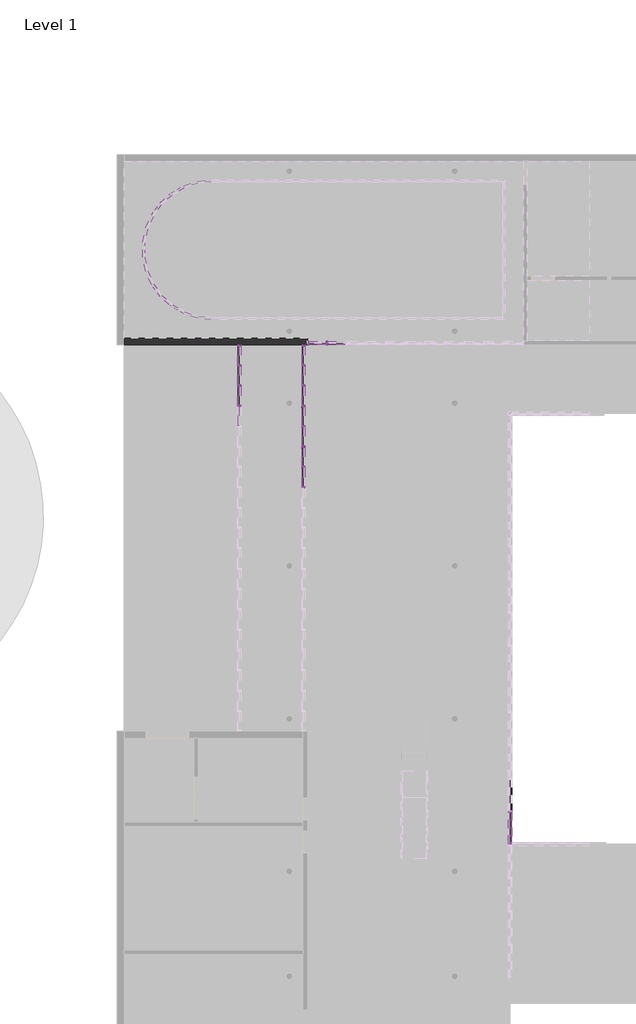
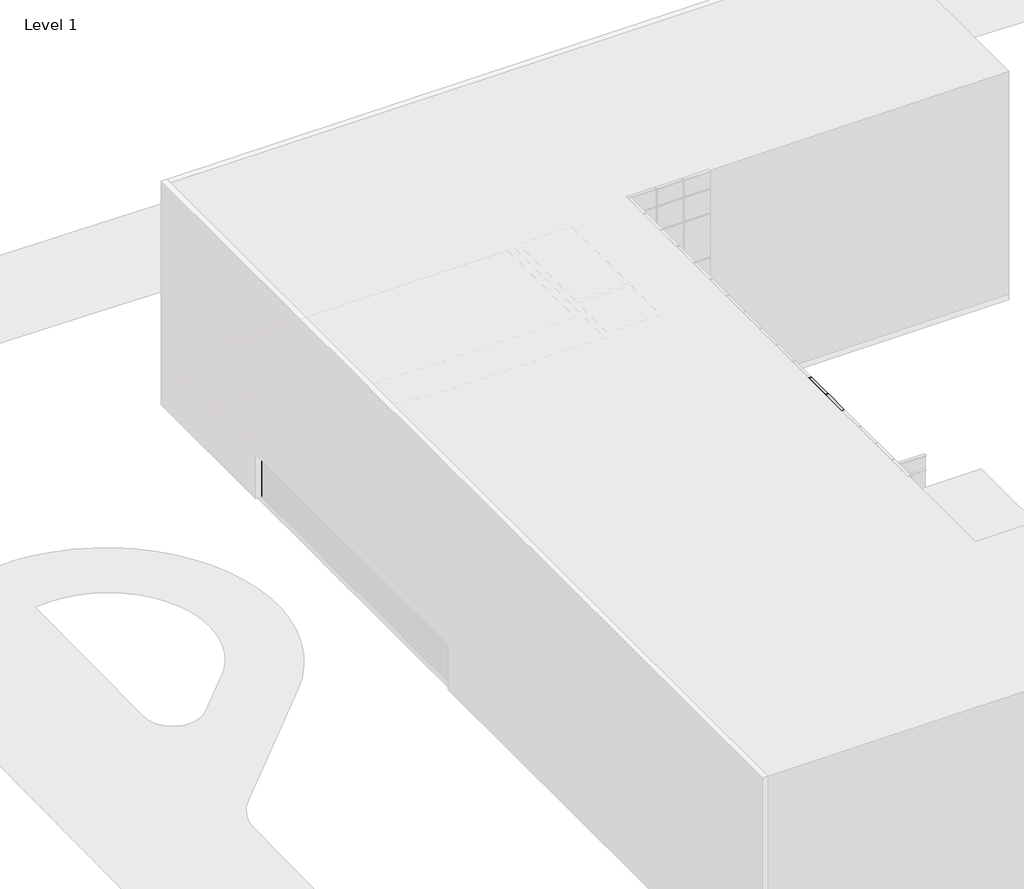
# One storey, part 11 of 27: 85 members, 32 plates, 2 doors, 2 walls.
"""IFC4 building model written with IfcOpenShell, lengths in millimetres."""

from ifc_helpers import new_model, si_unit, point, frame, frame_2d, origin, place, context, project, spatial, polyline, circle_curve, trimmed, segment, composite_curve, outline, extrude, faceted_brep, transform, mapped, element, save
from components import m_door_curtain_wall_double_storefront_m_door_curtain_wall_2970ffc3, rectangular_mullion_50mm_x_150mm_13593f2b, rectangular_mullion_50mm_x_150mm_0e57614d, rectangular_mullion_50mm_x_150mm_d8a63713, rectangular_mullion_50mm_x_150mm_a5e1a8f4, rectangular_mullion_50mm_x_150mm_caa46ae3, rectangular_mullion_50mm_x_150mm_eff96389, rectangular_mullion_50mm_x_150mm_2f4df0fd, rectangular_mullion_50mm_x_150mm_a28728bf, rectangular_mullion_50mm_x_150mm_22af440f, rectangular_mullion_50mm_x_150mm_0f59f38f, rectangular_mullion_50mm_x_150mm_3fa3ad65, rectangular_mullion_50mm_x_150mm_d427b131, rectangular_mullion_50mm_x_150mm_a376ce0f, rectangular_mullion_50mm_x_150mm_4471a7bc, rectangular_mullion_50mm_x_150mm_1cdaa0f1, rectangular_mullion_50mm_x_150mm_70cae3e1, rectangular_mullion_50mm_x_150mm_5226f6e8, rectangular_mullion_50mm_x_150mm_cdcddcff, rectangular_mullion_50mm_x_150mm_bbc1c4ea, rectangular_mullion_50mm_x_150mm_36202a7c, rectangular_mullion_50mm_x_150mm_84717ec5, system_panel_glazed_dff54dbd, system_panel_glazed_4aef0c34, system_panel_glazed_3f9df8c7, system_panel_glazed_45ebec01, system_panel_glazed_aa3f7126, system_panel_glazed_37b7c907, system_panel_glazed_7c3f78ea, system_panel_glazed_1f05e993, system_panel_glazed_979b1f5c, system_panel_glazed_2f061a2c, system_panel_glazed_e0fa8d18, system_panel_glazed_d7f2fe37, system_panel_solid_7338a288, system_panel_solid_0b170172, system_panel_solid_080c1e2c, system_panel_solid_c63c66e8

model = new_model("IFC4")

# Units and contexts
model_context = context("Model", 3, world=origin())
ifc_project = project(units=[si_unit("LENGTHUNIT", "METRE", prefix="MILLI")], contexts=[model_context])

# Site, building, storey
site = spatial("IfcSite", under=ifc_project)
building = spatial("IfcBuilding", under=site)
storey = spatial("IfcBuildingStorey", under=building, Name="Level 1", Elevation=0.0)

# Doors
placement = place(None, origin())
m_door_curtain_wall_double_storefront_m_door_curtain_wall_shape = m_door_curtain_wall_double_storefront_m_door_curtain_wall_2970ffc3(model_context)
element("IfcDoor", 1, ObjectType="M_Door-Curtain-Wall-Double-Storefront : M_Door-Curtain-Wall-Double-Storefront", at=placement, inside=storey, context=model_context, shape_type="MappedRepresentation", body=[
    mapped(m_door_curtain_wall_double_storefront_m_door_curtain_wall_shape, transform((-1903.8386635, 16994.8957697, 0.0), x_axis=(0.0, -1.0, 0.0), y_axis=(1.0, 0.0, 0.0), z_axis=(0.0, 0.0, 1.0))),
])
element("IfcDoor", 2, ObjectType="M_Door-Curtain-Wall-Double-Storefront : M_Door-Curtain-Wall-Double-Storefront", at=placement, inside=storey, context=model_context, shape_type="MappedRepresentation", body=[
    mapped(m_door_curtain_wall_double_storefront_m_door_curtain_wall_shape, transform((-1903.8386635, 18836.7905065, 0.0), x_axis=(0.0, -1.0, 0.0), y_axis=(1.0, 0.0, 0.0), z_axis=(0.0, 0.0, 1.0))),
])

# Members
rectangular_mullion_50mm_x_150mm_shape = rectangular_mullion_50mm_x_150mm_13593f2b(model_context)
element("IfcMember", 3, ObjectType="Rectangular Mullion : 50mm x 150mm", at=placement, inside=storey, context=model_context, shape_type="MappedRepresentation", body=[
    mapped(rectangular_mullion_50mm_x_150mm_shape, transform((-865.0805055, 22595.5799804, 0.0), x_axis=(0.0, 0.0, -1.0), y_axis=(0.0, 1.0, 0.0), z_axis=(1.0, 0.0, 0.0))),
])
element("IfcMember", 4, ObjectType="Rectangular Mullion : 50mm x 150mm", at=placement, inside=storey, context=model_context, shape_type="MappedRepresentation", body=[
    mapped(rectangular_mullion_50mm_x_150mm_shape, transform((-1678.8386635, 22595.5799804, 3550.0), x_axis=(0.0, 0.0, 1.0), y_axis=(0.0, 1.0, 0.0), z_axis=(-1.0, 0.0, 0.0))),
])
rectangular_mullion_50mm_x_150mm_2_shape = rectangular_mullion_50mm_x_150mm_0e57614d(model_context)
element("IfcMember", 5, ObjectType="Rectangular Mullion : 50mm x 150mm", at=placement, inside=storey, context=model_context, shape_type="MappedRepresentation", body=[
    mapped(rectangular_mullion_50mm_x_150mm_2_shape, transform((-815.0805055, 22595.5799804, 3550.0), x_axis=(0.0, 0.0, 1.0), y_axis=(0.0, 1.0, 0.0), z_axis=(-1.0, 0.0, 0.0))),
])
rectangular_mullion_50mm_x_150mm_3_shape = rectangular_mullion_50mm_x_150mm_d8a63713(model_context)
element("IfcMember", 6, ObjectType="Rectangular Mullion : 50mm x 150mm", at=placement, inside=storey, context=model_context, shape_type="MappedRepresentation", body=[
    mapped(rectangular_mullion_50mm_x_150mm_3_shape, transform((-840.0805055, 22595.5799804, 0.0), x_axis=(-1.0, 0.0, 0.0), y_axis=(0.0, 1.0, 0.0), z_axis=(0.0, 0.0, -1.0))),
])
rectangular_mullion_50mm_x_150mm_4_shape = rectangular_mullion_50mm_x_150mm_a5e1a8f4(model_context)
element("IfcMember", 7, ObjectType="Rectangular Mullion : 50mm x 150mm", at=placement, inside=storey, context=model_context, shape_type="MappedRepresentation", body=[
    mapped(rectangular_mullion_50mm_x_150mm_4_shape, transform((-1678.8386635, 22595.5799804, 2235.0), x_axis=(0.0, 0.0, 1.0), y_axis=(0.0, 1.0, 0.0), z_axis=(-1.0, 0.0, 0.0))),
])
element("IfcMember", 8, ObjectType="Rectangular Mullion : 50mm x 150mm", at=placement, inside=storey, context=model_context, shape_type="MappedRepresentation", body=[
    mapped(rectangular_mullion_50mm_x_150mm_4_shape, transform((-1678.8386635, 22595.5799804, 2135.0), x_axis=(0.0, 0.0, 1.0), y_axis=(0.0, 1.0, 0.0), z_axis=(-1.0, 0.0, 0.0))),
])
rectangular_mullion_50mm_x_150mm_5_shape = rectangular_mullion_50mm_x_150mm_caa46ae3(model_context)
element("IfcMember", 9, ObjectType="Rectangular Mullion : 50mm x 150mm", at=placement, inside=storey, context=model_context, shape_type="MappedRepresentation", body=[
    mapped(rectangular_mullion_50mm_x_150mm_5_shape, transform((-815.0805055, 22595.5799804, 2235.0), x_axis=(0.0, 0.0, 1.0), y_axis=(0.0, 1.0, 0.0), z_axis=(-1.0, 0.0, 0.0))),
])
element("IfcMember", 10, ObjectType="Rectangular Mullion : 50mm x 150mm", at=placement, inside=storey, context=model_context, shape_type="MappedRepresentation", body=[
    mapped(rectangular_mullion_50mm_x_150mm_5_shape, transform((-815.0805055, 22595.5799804, 2135.0), x_axis=(0.0, 0.0, 1.0), y_axis=(0.0, 1.0, 0.0), z_axis=(-1.0, 0.0, 0.0))),
])
rectangular_mullion_50mm_x_150mm_6_shape = rectangular_mullion_50mm_x_150mm_eff96389(model_context)
element("IfcMember", 11, ObjectType="Rectangular Mullion : 50mm x 150mm", at=placement, inside=storey, context=model_context, shape_type="MappedRepresentation", body=[
    mapped(rectangular_mullion_50mm_x_150mm_6_shape, transform((-840.0805055, 22595.5799804, 2235.0), x_axis=(-1.0, 0.0, 0.0), y_axis=(0.0, 1.0, 0.0), z_axis=(0.0, 0.0, -1.0))),
])
rectangular_mullion_50mm_x_150mm_7_shape = rectangular_mullion_50mm_x_150mm_2f4df0fd(model_context)
element("IfcMember", 12, ObjectType="Rectangular Mullion : 50mm x 150mm", at=placement, inside=storey, context=model_context, shape_type="MappedRepresentation", body=[
    mapped(rectangular_mullion_50mm_x_150mm_7_shape, transform((-1728.8386635, 22595.5799804, 2235.0), x_axis=(-1.0, 0.0, 0.0), y_axis=(0.0, 1.0, 0.0), z_axis=(0.0, 0.0, -1.0))),
])
rectangular_mullion_50mm_x_150mm_8_shape = rectangular_mullion_50mm_x_150mm_a28728bf(model_context)
element("IfcMember", 13, ObjectType="Rectangular Mullion : 50mm x 150mm", at=placement, inside=storey, context=model_context, shape_type="MappedRepresentation", body=[
    mapped(rectangular_mullion_50mm_x_150mm_8_shape, transform((-840.0805055, 22595.5799804, 2135.0), x_axis=(-1.0, 0.0, 0.0), y_axis=(0.0, 1.0, 0.0), z_axis=(0.0, 0.0, -1.0))),
])
rectangular_mullion_50mm_x_150mm_9_shape = rectangular_mullion_50mm_x_150mm_22af440f(model_context)
element("IfcMember", 14, ObjectType="Rectangular Mullion : 50mm x 150mm", at=placement, inside=storey, context=model_context, shape_type="MappedRepresentation", body=[
    mapped(rectangular_mullion_50mm_x_150mm_9_shape, transform((-1728.8386635, 22595.5799804, 0.0), x_axis=(-1.0, 0.0, 0.0), y_axis=(0.0, 1.0, 0.0), z_axis=(0.0, 0.0, -1.0))),
])
rectangular_mullion_50mm_x_150mm_10_shape = rectangular_mullion_50mm_x_150mm_0f59f38f(model_context)
element("IfcMember", 15, ObjectType="Rectangular Mullion : 50mm x 150mm", at=placement, inside=storey, context=model_context, shape_type="MappedRepresentation", body=[
    mapped(rectangular_mullion_50mm_x_150mm_10_shape, transform((-1728.8386635, 22595.5799804, 2135.0), x_axis=(-1.0, 0.0, 0.0), y_axis=(0.0, 1.0, 0.0), z_axis=(0.0, 0.0, -1.0))),
])
rectangular_mullion_50mm_x_150mm_11_shape = rectangular_mullion_50mm_x_150mm_3fa3ad65(model_context)
element("IfcMember", 16, ObjectType="Rectangular Mullion : 50mm x 150mm", at=placement, inside=storey, context=model_context, shape_type="MappedRepresentation", body=[
    mapped(rectangular_mullion_50mm_x_150mm_11_shape, transform((-1903.8386635, 21624.6326117, 3550.0), x_axis=(0.0, 0.0, 1.0), y_axis=(-1.0, 0.0, 0.0), z_axis=(0.0, -1.0, 0.0))),
])
element("IfcMember", 17, ObjectType="Rectangular Mullion : 50mm x 150mm", at=placement, inside=storey, context=model_context, shape_type="MappedRepresentation", body=[
    mapped(rectangular_mullion_50mm_x_150mm_11_shape, transform((-4803.8386635, 21624.6326117, 3550.0), x_axis=(0.0, 0.0, 1.0), y_axis=(-1.0, 0.0, 0.0), z_axis=(0.0, -1.0, 0.0))),
])
rectangular_mullion_50mm_x_150mm_12_shape = rectangular_mullion_50mm_x_150mm_d427b131(model_context)
element("IfcMember", 18, ObjectType="Rectangular Mullion : 50mm x 150mm", at=placement, inside=storey, context=model_context, shape_type="MappedRepresentation", body=[
    mapped(rectangular_mullion_50mm_x_150mm_12_shape, transform((-1903.8386635, 16098.9484014, 3550.0), x_axis=(0.0, 0.0, 1.0), y_axis=(-1.0, 0.0, 0.0), z_axis=(0.0, -1.0, 0.0))),
])
element("IfcMember", 19, ObjectType="Rectangular Mullion : 50mm x 150mm", at=placement, inside=storey, context=model_context, shape_type="MappedRepresentation", body=[
    mapped(rectangular_mullion_50mm_x_150mm_12_shape, transform((-1903.8386635, 17019.8957697, 3550.0), x_axis=(0.0, 0.0, 1.0), y_axis=(-1.0, 0.0, 0.0), z_axis=(0.0, -1.0, 0.0))),
])
element("IfcMember", 20, ObjectType="Rectangular Mullion : 50mm x 150mm", at=placement, inside=storey, context=model_context, shape_type="MappedRepresentation", body=[
    mapped(rectangular_mullion_50mm_x_150mm_12_shape, transform((-1903.8386635, 17940.8431381, 3550.0), x_axis=(0.0, 0.0, 1.0), y_axis=(-1.0, 0.0, 0.0), z_axis=(0.0, -1.0, 0.0))),
])
element("IfcMember", 21, ObjectType="Rectangular Mullion : 50mm x 150mm", at=placement, inside=storey, context=model_context, shape_type="MappedRepresentation", body=[
    mapped(rectangular_mullion_50mm_x_150mm_12_shape, transform((-1903.8386635, 18861.7905065, 3550.0), x_axis=(0.0, 0.0, 1.0), y_axis=(-1.0, 0.0, 0.0), z_axis=(0.0, -1.0, 0.0))),
])
element("IfcMember", 22, ObjectType="Rectangular Mullion : 50mm x 150mm", at=placement, inside=storey, context=model_context, shape_type="MappedRepresentation", body=[
    mapped(rectangular_mullion_50mm_x_150mm_12_shape, transform((-1903.8386635, 19782.7378749, 3550.0), x_axis=(0.0, 0.0, 1.0), y_axis=(-1.0, 0.0, 0.0), z_axis=(0.0, -1.0, 0.0))),
])
element("IfcMember", 23, ObjectType="Rectangular Mullion : 50mm x 150mm", at=placement, inside=storey, context=model_context, shape_type="MappedRepresentation", body=[
    mapped(rectangular_mullion_50mm_x_150mm_12_shape, transform((-1903.8386635, 20703.6852433, 3550.0), x_axis=(0.0, 0.0, 1.0), y_axis=(-1.0, 0.0, 0.0), z_axis=(0.0, -1.0, 0.0))),
])
element("IfcMember", 24, ObjectType="Rectangular Mullion : 50mm x 150mm", at=placement, inside=storey, context=model_context, shape_type="MappedRepresentation", body=[
    mapped(rectangular_mullion_50mm_x_150mm_12_shape, transform((-4803.8386635, 19782.7378749, 3550.0), x_axis=(0.0, 0.0, 1.0), y_axis=(-1.0, 0.0, 0.0), z_axis=(0.0, -1.0, 0.0))),
])
element("IfcMember", 25, ObjectType="Rectangular Mullion : 50mm x 150mm", at=placement, inside=storey, context=model_context, shape_type="MappedRepresentation", body=[
    mapped(rectangular_mullion_50mm_x_150mm_12_shape, transform((-4803.8386635, 20703.6852433, 3550.0), x_axis=(0.0, 0.0, 1.0), y_axis=(-1.0, 0.0, 0.0), z_axis=(0.0, -1.0, 0.0))),
])
element("IfcMember", 26, ObjectType="Rectangular Mullion : 50mm x 150mm", at=placement, inside=storey, context=model_context, shape_type="MappedRepresentation", body=[
    mapped(rectangular_mullion_50mm_x_150mm_12_shape, transform((-1903.8386635, 21574.6326117, 0.0), x_axis=(0.0, 0.0, -1.0), y_axis=(-1.0, 0.0, 0.0), z_axis=(0.0, 1.0, 0.0))),
])
element("IfcMember", 27, ObjectType="Rectangular Mullion : 50mm x 150mm", at=placement, inside=storey, context=model_context, shape_type="MappedRepresentation", body=[
    mapped(rectangular_mullion_50mm_x_150mm_12_shape, transform((-1903.8386635, 20653.6852433, 0.0), x_axis=(0.0, 0.0, -1.0), y_axis=(-1.0, 0.0, 0.0), z_axis=(0.0, 1.0, 0.0))),
])
element("IfcMember", 28, ObjectType="Rectangular Mullion : 50mm x 150mm", at=placement, inside=storey, context=model_context, shape_type="MappedRepresentation", body=[
    mapped(rectangular_mullion_50mm_x_150mm_12_shape, transform((-1903.8386635, 16048.9484014, 0.0), x_axis=(0.0, 0.0, -1.0), y_axis=(-1.0, 0.0, 0.0), z_axis=(0.0, 1.0, 0.0))),
])
element("IfcMember", 29, ObjectType="Rectangular Mullion : 50mm x 150mm", at=placement, inside=storey, context=model_context, shape_type="MappedRepresentation", body=[
    mapped(rectangular_mullion_50mm_x_150mm_12_shape, transform((-4803.8386635, 21574.6326117, 0.0), x_axis=(0.0, 0.0, -1.0), y_axis=(-1.0, 0.0, 0.0), z_axis=(0.0, 1.0, 0.0))),
])
element("IfcMember", 30, ObjectType="Rectangular Mullion : 50mm x 150mm", at=placement, inside=storey, context=model_context, shape_type="MappedRepresentation", body=[
    mapped(rectangular_mullion_50mm_x_150mm_12_shape, transform((-4803.8386635, 20653.6852433, 0.0), x_axis=(0.0, 0.0, -1.0), y_axis=(-1.0, 0.0, 0.0), z_axis=(0.0, 1.0, 0.0))),
])
element("IfcMember", 31, ObjectType="Rectangular Mullion : 50mm x 150mm", at=placement, inside=storey, context=model_context, shape_type="MappedRepresentation", body=[
    mapped(rectangular_mullion_50mm_x_150mm_11_shape, transform((-1903.8386635, 22470.5799804, 0.0), x_axis=(0.0, 0.0, -1.0), y_axis=(-1.0, 0.0, 0.0), z_axis=(0.0, 1.0, 0.0))),
])
element("IfcMember", 32, ObjectType="Rectangular Mullion : 50mm x 150mm", at=placement, inside=storey, context=model_context, shape_type="MappedRepresentation", body=[
    mapped(rectangular_mullion_50mm_x_150mm_11_shape, transform((-4803.8386635, 22470.5799804, 0.0), x_axis=(0.0, 0.0, -1.0), y_axis=(-1.0, 0.0, 0.0), z_axis=(0.0, 1.0, 0.0))),
])
element("IfcMember", 33, ObjectType="Rectangular Mullion : 50mm x 150mm", at=placement, inside=storey, context=model_context, shape_type="MappedRepresentation", body=[
    mapped(rectangular_mullion_50mm_x_150mm_3_shape, transform((-1903.8386635, 16073.9484014, 0.0), x_axis=(0.0, -1.0, 0.0), y_axis=(-1.0, 0.0, 0.0), z_axis=(0.0, 0.0, -1.0))),
])
element("IfcMember", 34, ObjectType="Rectangular Mullion : 50mm x 150mm", at=placement, inside=storey, context=model_context, shape_type="MappedRepresentation", body=[
    mapped(rectangular_mullion_50mm_x_150mm_3_shape, transform((-1903.8386635, 19757.7378749, 0.0), x_axis=(0.0, -1.0, 0.0), y_axis=(-1.0, 0.0, 0.0), z_axis=(0.0, 0.0, -1.0))),
])
element("IfcMember", 35, ObjectType="Rectangular Mullion : 50mm x 150mm", at=placement, inside=storey, context=model_context, shape_type="MappedRepresentation", body=[
    mapped(rectangular_mullion_50mm_x_150mm_3_shape, transform((-1903.8386635, 20678.6852433, 0.0), x_axis=(0.0, -1.0, 0.0), y_axis=(-1.0, 0.0, 0.0), z_axis=(0.0, 0.0, -1.0))),
])
element("IfcMember", 36, ObjectType="Rectangular Mullion : 50mm x 150mm", at=placement, inside=storey, context=model_context, shape_type="MappedRepresentation", body=[
    mapped(rectangular_mullion_50mm_x_150mm_3_shape, transform((-1903.8386635, 21599.6326117, 0.0), x_axis=(0.0, -1.0, 0.0), y_axis=(-1.0, 0.0, 0.0), z_axis=(0.0, 0.0, -1.0))),
])
element("IfcMember", 37, ObjectType="Rectangular Mullion : 50mm x 150mm", at=placement, inside=storey, context=model_context, shape_type="MappedRepresentation", body=[
    mapped(rectangular_mullion_50mm_x_150mm_3_shape, transform((-4803.8386635, 19757.7378749, 0.0), x_axis=(0.0, -1.0, 0.0), y_axis=(-1.0, 0.0, 0.0), z_axis=(0.0, 0.0, -1.0))),
])
element("IfcMember", 38, ObjectType="Rectangular Mullion : 50mm x 150mm", at=placement, inside=storey, context=model_context, shape_type="MappedRepresentation", body=[
    mapped(rectangular_mullion_50mm_x_150mm_3_shape, transform((-4803.8386635, 20678.6852433, 0.0), x_axis=(0.0, -1.0, 0.0), y_axis=(-1.0, 0.0, 0.0), z_axis=(0.0, 0.0, -1.0))),
])
element("IfcMember", 39, ObjectType="Rectangular Mullion : 50mm x 150mm", at=placement, inside=storey, context=model_context, shape_type="MappedRepresentation", body=[
    mapped(rectangular_mullion_50mm_x_150mm_3_shape, transform((-4803.8386635, 21599.6326117, 0.0), x_axis=(0.0, -1.0, 0.0), y_axis=(-1.0, 0.0, 0.0), z_axis=(0.0, 0.0, -1.0))),
])
element("IfcMember", 40, ObjectType="Rectangular Mullion : 50mm x 150mm", at=placement, inside=storey, context=model_context, shape_type="MappedRepresentation", body=[
    mapped(rectangular_mullion_50mm_x_150mm_8_shape, transform((-1903.8386635, 16073.9484014, 2135.0), x_axis=(0.0, -1.0, 0.0), y_axis=(-1.0, 0.0, 0.0), z_axis=(0.0, 0.0, -1.0))),
])
element("IfcMember", 41, ObjectType="Rectangular Mullion : 50mm x 150mm", at=placement, inside=storey, context=model_context, shape_type="MappedRepresentation", body=[
    mapped(rectangular_mullion_50mm_x_150mm_8_shape, transform((-1903.8386635, 17915.8431381, 2135.0), x_axis=(0.0, -1.0, 0.0), y_axis=(-1.0, 0.0, 0.0), z_axis=(0.0, 0.0, -1.0))),
])
element("IfcMember", 42, ObjectType="Rectangular Mullion : 50mm x 150mm", at=placement, inside=storey, context=model_context, shape_type="MappedRepresentation", body=[
    mapped(rectangular_mullion_50mm_x_150mm_8_shape, transform((-1903.8386635, 19757.7378749, 2135.0), x_axis=(0.0, -1.0, 0.0), y_axis=(-1.0, 0.0, 0.0), z_axis=(0.0, 0.0, -1.0))),
])
element("IfcMember", 43, ObjectType="Rectangular Mullion : 50mm x 150mm", at=placement, inside=storey, context=model_context, shape_type="MappedRepresentation", body=[
    mapped(rectangular_mullion_50mm_x_150mm_8_shape, transform((-1903.8386635, 20678.6852433, 2135.0), x_axis=(0.0, -1.0, 0.0), y_axis=(-1.0, 0.0, 0.0), z_axis=(0.0, 0.0, -1.0))),
])
element("IfcMember", 44, ObjectType="Rectangular Mullion : 50mm x 150mm", at=placement, inside=storey, context=model_context, shape_type="MappedRepresentation", body=[
    mapped(rectangular_mullion_50mm_x_150mm_8_shape, transform((-1903.8386635, 21599.6326117, 2135.0), x_axis=(0.0, -1.0, 0.0), y_axis=(-1.0, 0.0, 0.0), z_axis=(0.0, 0.0, -1.0))),
])
element("IfcMember", 45, ObjectType="Rectangular Mullion : 50mm x 150mm", at=placement, inside=storey, context=model_context, shape_type="MappedRepresentation", body=[
    mapped(rectangular_mullion_50mm_x_150mm_8_shape, transform((-4803.8386635, 19757.7378749, 2135.0), x_axis=(0.0, -1.0, 0.0), y_axis=(-1.0, 0.0, 0.0), z_axis=(0.0, 0.0, -1.0))),
])
element("IfcMember", 46, ObjectType="Rectangular Mullion : 50mm x 150mm", at=placement, inside=storey, context=model_context, shape_type="MappedRepresentation", body=[
    mapped(rectangular_mullion_50mm_x_150mm_8_shape, transform((-4803.8386635, 20678.6852433, 2135.0), x_axis=(0.0, -1.0, 0.0), y_axis=(-1.0, 0.0, 0.0), z_axis=(0.0, 0.0, -1.0))),
])
element("IfcMember", 47, ObjectType="Rectangular Mullion : 50mm x 150mm", at=placement, inside=storey, context=model_context, shape_type="MappedRepresentation", body=[
    mapped(rectangular_mullion_50mm_x_150mm_8_shape, transform((-4803.8386635, 21599.6326117, 2135.0), x_axis=(0.0, -1.0, 0.0), y_axis=(-1.0, 0.0, 0.0), z_axis=(0.0, 0.0, -1.0))),
])
rectangular_mullion_50mm_x_150mm_13_shape = rectangular_mullion_50mm_x_150mm_a376ce0f(model_context)
element("IfcMember", 48, ObjectType="Rectangular Mullion : 50mm x 150mm", at=placement, inside=storey, context=model_context, shape_type="MappedRepresentation", body=[
    mapped(rectangular_mullion_50mm_x_150mm_13_shape, transform((-1903.8386635, 21624.6326117, 2135.0), x_axis=(0.0, 0.0, 1.0), y_axis=(-1.0, 0.0, 0.0), z_axis=(0.0, -1.0, 0.0))),
])
element("IfcMember", 49, ObjectType="Rectangular Mullion : 50mm x 150mm", at=placement, inside=storey, context=model_context, shape_type="MappedRepresentation", body=[
    mapped(rectangular_mullion_50mm_x_150mm_13_shape, transform((-4803.8386635, 21624.6326117, 2135.0), x_axis=(0.0, 0.0, 1.0), y_axis=(-1.0, 0.0, 0.0), z_axis=(0.0, -1.0, 0.0))),
])
rectangular_mullion_50mm_x_150mm_14_shape = rectangular_mullion_50mm_x_150mm_4471a7bc(model_context)
element("IfcMember", 50, ObjectType="Rectangular Mullion : 50mm x 150mm", at=placement, inside=storey, context=model_context, shape_type="MappedRepresentation", body=[
    mapped(rectangular_mullion_50mm_x_150mm_14_shape, transform((-1903.8386635, 20703.6852433, 2135.0), x_axis=(0.0, 0.0, 1.0), y_axis=(-1.0, 0.0, 0.0), z_axis=(0.0, -1.0, 0.0))),
])
element("IfcMember", 51, ObjectType="Rectangular Mullion : 50mm x 150mm", at=placement, inside=storey, context=model_context, shape_type="MappedRepresentation", body=[
    mapped(rectangular_mullion_50mm_x_150mm_14_shape, transform((-1903.8386635, 19782.7378749, 2135.0), x_axis=(0.0, 0.0, 1.0), y_axis=(-1.0, 0.0, 0.0), z_axis=(0.0, -1.0, 0.0))),
])
element("IfcMember", 52, ObjectType="Rectangular Mullion : 50mm x 150mm", at=placement, inside=storey, context=model_context, shape_type="MappedRepresentation", body=[
    mapped(rectangular_mullion_50mm_x_150mm_14_shape, transform((-1903.8386635, 18861.7905065, 2135.0), x_axis=(0.0, 0.0, 1.0), y_axis=(-1.0, 0.0, 0.0), z_axis=(0.0, -1.0, 0.0))),
])
element("IfcMember", 53, ObjectType="Rectangular Mullion : 50mm x 150mm", at=placement, inside=storey, context=model_context, shape_type="MappedRepresentation", body=[
    mapped(rectangular_mullion_50mm_x_150mm_14_shape, transform((-1903.8386635, 17940.8431381, 2135.0), x_axis=(0.0, 0.0, 1.0), y_axis=(-1.0, 0.0, 0.0), z_axis=(0.0, -1.0, 0.0))),
])
element("IfcMember", 54, ObjectType="Rectangular Mullion : 50mm x 150mm", at=placement, inside=storey, context=model_context, shape_type="MappedRepresentation", body=[
    mapped(rectangular_mullion_50mm_x_150mm_14_shape, transform((-1903.8386635, 17019.8957697, 2135.0), x_axis=(0.0, 0.0, 1.0), y_axis=(-1.0, 0.0, 0.0), z_axis=(0.0, -1.0, 0.0))),
])
element("IfcMember", 55, ObjectType="Rectangular Mullion : 50mm x 150mm", at=placement, inside=storey, context=model_context, shape_type="MappedRepresentation", body=[
    mapped(rectangular_mullion_50mm_x_150mm_14_shape, transform((-1903.8386635, 16098.9484014, 2135.0), x_axis=(0.0, 0.0, 1.0), y_axis=(-1.0, 0.0, 0.0), z_axis=(0.0, -1.0, 0.0))),
])
element("IfcMember", 56, ObjectType="Rectangular Mullion : 50mm x 150mm", at=placement, inside=storey, context=model_context, shape_type="MappedRepresentation", body=[
    mapped(rectangular_mullion_50mm_x_150mm_14_shape, transform((-4803.8386635, 20703.6852433, 2135.0), x_axis=(0.0, 0.0, 1.0), y_axis=(-1.0, 0.0, 0.0), z_axis=(0.0, -1.0, 0.0))),
])
element("IfcMember", 57, ObjectType="Rectangular Mullion : 50mm x 150mm", at=placement, inside=storey, context=model_context, shape_type="MappedRepresentation", body=[
    mapped(rectangular_mullion_50mm_x_150mm_14_shape, transform((-4803.8386635, 19782.7378749, 2135.0), x_axis=(0.0, 0.0, 1.0), y_axis=(-1.0, 0.0, 0.0), z_axis=(0.0, -1.0, 0.0))),
])
element("IfcMember", 58, ObjectType="Rectangular Mullion : 50mm x 150mm", at=placement, inside=storey, context=model_context, shape_type="MappedRepresentation", body=[
    mapped(rectangular_mullion_50mm_x_150mm_10_shape, transform((-1903.8386635, 22520.5799804, 3550.0), x_axis=(0.0, 1.0, 0.0), y_axis=(-1.0, 0.0, 0.0), z_axis=(0.0, 0.0, 1.0))),
])
element("IfcMember", 59, ObjectType="Rectangular Mullion : 50mm x 150mm", at=placement, inside=storey, context=model_context, shape_type="MappedRepresentation", body=[
    mapped(rectangular_mullion_50mm_x_150mm_10_shape, transform((-4803.8386635, 22520.5799804, 3550.0), x_axis=(0.0, 1.0, 0.0), y_axis=(-1.0, 0.0, 0.0), z_axis=(0.0, 0.0, 1.0))),
])
element("IfcMember", 60, ObjectType="Rectangular Mullion : 50mm x 150mm", at=placement, inside=storey, context=model_context, shape_type="MappedRepresentation", body=[
    mapped(rectangular_mullion_50mm_x_150mm_9_shape, transform((-1903.8386635, 22520.5799804, 2135.0), x_axis=(0.0, 1.0, 0.0), y_axis=(-1.0, 0.0, 0.0), z_axis=(0.0, 0.0, 1.0))),
])
element("IfcMember", 61, ObjectType="Rectangular Mullion : 50mm x 150mm", at=placement, inside=storey, context=model_context, shape_type="MappedRepresentation", body=[
    mapped(rectangular_mullion_50mm_x_150mm_9_shape, transform((-4803.8386635, 22520.5799804, 2135.0), x_axis=(0.0, 1.0, 0.0), y_axis=(-1.0, 0.0, 0.0), z_axis=(0.0, 0.0, 1.0))),
])
rectangular_mullion_50mm_x_150mm_15_shape = rectangular_mullion_50mm_x_150mm_1cdaa0f1(model_context)
element("IfcMember", 62, ObjectType="Rectangular Mullion : 50mm x 150mm", at=placement, inside=storey, context=model_context, shape_type="MappedRepresentation", body=[
    mapped(rectangular_mullion_50mm_x_150mm_15_shape, transform((-1903.8386635, 16994.8957697, 2110.0), x_axis=(0.0, -1.0, 0.0), y_axis=(-1.0, 0.0, 0.0), z_axis=(0.0, 0.0, -1.0))),
])
element("IfcMember", 63, ObjectType="Rectangular Mullion : 50mm x 150mm", at=placement, inside=storey, context=model_context, shape_type="MappedRepresentation", body=[
    mapped(rectangular_mullion_50mm_x_150mm_15_shape, transform((-1903.8386635, 18836.7905065, 2110.0), x_axis=(0.0, -1.0, 0.0), y_axis=(-1.0, 0.0, 0.0), z_axis=(0.0, 0.0, -1.0))),
])
element("IfcMember", 64, ObjectType="Rectangular Mullion : 50mm x 150mm", at=placement, inside=storey, context=model_context, shape_type="MappedRepresentation", body=[
    mapped(rectangular_mullion_50mm_x_150mm_3_shape, transform((-1903.8386635, 17915.8431381, 0.0), x_axis=(0.0, -1.0, 0.0), y_axis=(-1.0, 0.0, 0.0), z_axis=(0.0, 0.0, -1.0))),
])
rectangular_mullion_50mm_x_150mm_16_shape = rectangular_mullion_50mm_x_150mm_70cae3e1(model_context)
element("IfcMember", 65, ObjectType="Rectangular Mullion : 50mm x 150mm", at=placement, inside=storey, context=model_context, shape_type="MappedRepresentation", body=[
    mapped(rectangular_mullion_50mm_x_150mm_16_shape, transform((7447.5010724, 1362.8673344, 12400.0), x_axis=(0.0, 0.0, 1.0), y_axis=(1.0, 0.0, 0.0), z_axis=(0.0, 1.0, 0.0))),
])
element("IfcMember", 66, ObjectType="Rectangular Mullion : 50mm x 150mm", at=placement, inside=storey, context=model_context, shape_type="MappedRepresentation", body=[
    mapped(rectangular_mullion_50mm_x_150mm_16_shape, transform((7447.5010724, 2865.1149904, 12400.0), x_axis=(0.0, 0.0, 1.0), y_axis=(1.0, 0.0, 0.0), z_axis=(0.0, 1.0, 0.0))),
])
element("IfcMember", 67, ObjectType="Rectangular Mullion : 50mm x 150mm", at=placement, inside=storey, context=model_context, shape_type="MappedRepresentation", body=[
    mapped(rectangular_mullion_50mm_x_150mm_16_shape, transform((7447.5010724, 1412.8673344, 0.0), x_axis=(0.0, 0.0, -1.0), y_axis=(1.0, 0.0, 0.0), z_axis=(0.0, -1.0, 0.0))),
])
rectangular_mullion_50mm_x_150mm_17_shape = rectangular_mullion_50mm_x_150mm_5226f6e8(model_context)
element("IfcMember", 68, ObjectType="Rectangular Mullion : 50mm x 150mm", at=placement, inside=storey, context=model_context, shape_type="MappedRepresentation", body=[
    mapped(rectangular_mullion_50mm_x_150mm_17_shape, transform((7447.5010724, 2865.1149904, 3800.0), x_axis=(0.0, 0.0, 1.0), y_axis=(1.0, 0.0, 0.0), z_axis=(0.0, 1.0, 0.0))),
])
element("IfcMember", 69, ObjectType="Rectangular Mullion : 50mm x 150mm", at=placement, inside=storey, context=model_context, shape_type="MappedRepresentation", body=[
    mapped(rectangular_mullion_50mm_x_150mm_17_shape, transform((7447.5010724, 1362.8673344, 7600.0), x_axis=(0.0, 0.0, 1.0), y_axis=(1.0, 0.0, 0.0), z_axis=(0.0, 1.0, 0.0))),
])
element("IfcMember", 70, ObjectType="Rectangular Mullion : 50mm x 150mm", at=placement, inside=storey, context=model_context, shape_type="MappedRepresentation", body=[
    mapped(rectangular_mullion_50mm_x_150mm_17_shape, transform((7447.5010724, 2865.1149904, 7600.0), x_axis=(0.0, 0.0, 1.0), y_axis=(1.0, 0.0, 0.0), z_axis=(0.0, 1.0, 0.0))),
])
element("IfcMember", 71, ObjectType="Rectangular Mullion : 50mm x 150mm", at=placement, inside=storey, context=model_context, shape_type="MappedRepresentation", body=[
    mapped(rectangular_mullion_50mm_x_150mm_17_shape, transform((7447.5010724, 1362.8673344, 11400.0), x_axis=(0.0, 0.0, 1.0), y_axis=(1.0, 0.0, 0.0), z_axis=(0.0, 1.0, 0.0))),
])
element("IfcMember", 72, ObjectType="Rectangular Mullion : 50mm x 150mm", at=placement, inside=storey, context=model_context, shape_type="MappedRepresentation", body=[
    mapped(rectangular_mullion_50mm_x_150mm_17_shape, transform((7447.5010724, 2865.1149904, 11400.0), x_axis=(0.0, 0.0, 1.0), y_axis=(1.0, 0.0, 0.0), z_axis=(0.0, 1.0, 0.0))),
])
element("IfcMember", 73, ObjectType="Rectangular Mullion : 50mm x 150mm", at=placement, inside=storey, context=model_context, shape_type="MappedRepresentation", body=[
    mapped(rectangular_mullion_50mm_x_150mm_17_shape, transform((7447.5010724, 1362.8673344, 10040.0), x_axis=(0.0, 0.0, 1.0), y_axis=(1.0, 0.0, 0.0), z_axis=(0.0, 1.0, 0.0))),
])
rectangular_mullion_50mm_x_150mm_18_shape = rectangular_mullion_50mm_x_150mm_cdcddcff(model_context)
element("IfcMember", 74, ObjectType="Rectangular Mullion : 50mm x 150mm", at=placement, inside=storey, context=model_context, shape_type="MappedRepresentation", body=[
    mapped(rectangular_mullion_50mm_x_150mm_18_shape, transform((7447.5010724, 1362.8673344, 3800.0), x_axis=(0.0, 0.0, 1.0), y_axis=(1.0, 0.0, 0.0), z_axis=(0.0, 1.0, 0.0))),
])
element("IfcMember", 75, ObjectType="Rectangular Mullion : 50mm x 150mm", at=placement, inside=storey, context=model_context, shape_type="MappedRepresentation", body=[
    mapped(rectangular_mullion_50mm_x_150mm_18_shape, transform((7447.5010724, 1362.8673344, 6240.0), x_axis=(0.0, 0.0, 1.0), y_axis=(1.0, 0.0, 0.0), z_axis=(0.0, 1.0, 0.0))),
])
element("IfcMember", 76, ObjectType="Rectangular Mullion : 50mm x 150mm", at=placement, inside=storey, context=model_context, shape_type="MappedRepresentation", body=[
    mapped(rectangular_mullion_50mm_x_150mm_18_shape, transform((7447.5010724, 1362.8673344, 2440.0), x_axis=(0.0, 0.0, 1.0), y_axis=(1.0, 0.0, 0.0), z_axis=(0.0, 1.0, 0.0))),
])
rectangular_mullion_50mm_x_150mm_19_shape = rectangular_mullion_50mm_x_150mm_bbc1c4ea(model_context)
element("IfcMember", 77, ObjectType="Rectangular Mullion : 50mm x 150mm", at=placement, inside=storey, context=model_context, shape_type="MappedRepresentation", body=[
    mapped(rectangular_mullion_50mm_x_150mm_19_shape, transform((7447.5010724, 1387.8673344, 11400.0), x_axis=(0.0, 1.0, 0.0), y_axis=(1.0, 0.0, 0.0), z_axis=(0.0, 0.0, -1.0))),
])
element("IfcMember", 78, ObjectType="Rectangular Mullion : 50mm x 150mm", at=placement, inside=storey, context=model_context, shape_type="MappedRepresentation", body=[
    mapped(rectangular_mullion_50mm_x_150mm_19_shape, transform((7447.5010724, 2890.1149904, 11400.0), x_axis=(0.0, 1.0, 0.0), y_axis=(1.0, 0.0, 0.0), z_axis=(0.0, 0.0, -1.0))),
])
rectangular_mullion_50mm_x_150mm_20_shape = rectangular_mullion_50mm_x_150mm_36202a7c(model_context)
element("IfcMember", 79, ObjectType="Rectangular Mullion : 50mm x 150mm", at=placement, inside=storey, context=model_context, shape_type="MappedRepresentation", body=[
    mapped(rectangular_mullion_50mm_x_150mm_20_shape, transform((7447.5010724, 1387.8673344, 0.0), x_axis=(0.0, 1.0, 0.0), y_axis=(1.0, 0.0, 0.0), z_axis=(0.0, 0.0, -1.0))),
])
element("IfcMember", 80, ObjectType="Rectangular Mullion : 50mm x 150mm", at=placement, inside=storey, context=model_context, shape_type="MappedRepresentation", body=[
    mapped(rectangular_mullion_50mm_x_150mm_20_shape, transform((7447.5010724, 2890.1149904, 0.0), x_axis=(0.0, 1.0, 0.0), y_axis=(1.0, 0.0, 0.0), z_axis=(0.0, 0.0, -1.0))),
])
rectangular_mullion_50mm_x_150mm_21_shape = rectangular_mullion_50mm_x_150mm_84717ec5(model_context)
element("IfcMember", 81, ObjectType="Rectangular Mullion : 50mm x 150mm", at=placement, inside=storey, context=model_context, shape_type="MappedRepresentation", body=[
    mapped(rectangular_mullion_50mm_x_150mm_21_shape, transform((7447.5010724, 1387.8673344, 10040.0), x_axis=(0.0, 1.0, 0.0), y_axis=(1.0, 0.0, 0.0), z_axis=(0.0, 0.0, -1.0))),
])
element("IfcMember", 82, ObjectType="Rectangular Mullion : 50mm x 150mm", at=placement, inside=storey, context=model_context, shape_type="MappedRepresentation", body=[
    mapped(rectangular_mullion_50mm_x_150mm_21_shape, transform((7447.5010724, 1387.8673344, 6240.0), x_axis=(0.0, 1.0, 0.0), y_axis=(1.0, 0.0, 0.0), z_axis=(0.0, 0.0, -1.0))),
])
element("IfcMember", 83, ObjectType="Rectangular Mullion : 50mm x 150mm", at=placement, inside=storey, context=model_context, shape_type="MappedRepresentation", body=[
    mapped(rectangular_mullion_50mm_x_150mm_21_shape, transform((7447.5010724, 1387.8673344, 2440.0), x_axis=(0.0, 1.0, 0.0), y_axis=(1.0, 0.0, 0.0), z_axis=(0.0, 0.0, -1.0))),
])
element("IfcMember", 84, ObjectType="Rectangular Mullion : 50mm x 150mm", at=placement, inside=storey, context=model_context, shape_type="MappedRepresentation", body=[
    mapped(rectangular_mullion_50mm_x_150mm_20_shape, transform((7447.5010724, 1387.8673344, 3800.0), x_axis=(0.0, 1.0, 0.0), y_axis=(1.0, 0.0, 0.0), z_axis=(0.0, 0.0, -1.0))),
])
element("IfcMember", 85, ObjectType="Rectangular Mullion : 50mm x 150mm", at=placement, inside=storey, context=model_context, shape_type="MappedRepresentation", body=[
    mapped(rectangular_mullion_50mm_x_150mm_20_shape, transform((7447.5010724, 2890.1149904, 3800.0), x_axis=(0.0, 1.0, 0.0), y_axis=(1.0, 0.0, 0.0), z_axis=(0.0, 0.0, -1.0))),
])
element("IfcMember", 86, ObjectType="Rectangular Mullion : 50mm x 150mm", at=placement, inside=storey, context=model_context, shape_type="MappedRepresentation", body=[
    mapped(rectangular_mullion_50mm_x_150mm_20_shape, transform((7447.5010724, 1387.8673344, 7600.0), x_axis=(0.0, 1.0, 0.0), y_axis=(1.0, 0.0, 0.0), z_axis=(0.0, 0.0, -1.0))),
])
element("IfcMember", 87, ObjectType="Rectangular Mullion : 50mm x 150mm", at=placement, inside=storey, context=model_context, shape_type="MappedRepresentation", body=[
    mapped(rectangular_mullion_50mm_x_150mm_20_shape, transform((7447.5010724, 2890.1149904, 7600.0), x_axis=(0.0, 1.0, 0.0), y_axis=(1.0, 0.0, 0.0), z_axis=(0.0, 0.0, -1.0))),
])

# Plates
system_panel_glazed_shape = system_panel_glazed_dff54dbd(model_context)
element("IfcPlate", 88, ObjectType="System Panel : Glazed", at=placement, inside=storey, context=model_context, shape_type="MappedRepresentation", body=[
    mapped(system_panel_glazed_shape, transform((-1271.9595845, 22595.5799804, 50.0), x_axis=(-1.0, 0.0, 0.0), y_axis=(0.0, -1.0, 0.0), z_axis=(0.0, 0.0, 1.0))),
])
system_panel_glazed_2_shape = system_panel_glazed_4aef0c34(model_context)
element("IfcPlate", 89, ObjectType="System Panel : Glazed", at=placement, inside=storey, context=model_context, shape_type="MappedRepresentation", body=[
    mapped(system_panel_glazed_2_shape, transform((-395.7014266, 22595.5799804, 50.0), x_axis=(-1.0, 0.0, 0.0), y_axis=(0.0, -1.0, 0.0), z_axis=(0.0, 0.0, 1.0))),
])
system_panel_glazed_3_shape = system_panel_glazed_3f9df8c7(model_context)
element("IfcPlate", 90, ObjectType="System Panel : Glazed", at=placement, inside=storey, context=model_context, shape_type="MappedRepresentation", body=[
    mapped(system_panel_glazed_3_shape, transform((-1271.9595845, 22595.5799804, 2160.0), x_axis=(-1.0, 0.0, 0.0), y_axis=(0.0, -1.0, 0.0), z_axis=(0.0, 0.0, 1.0))),
])
system_panel_glazed_4_shape = system_panel_glazed_45ebec01(model_context)
element("IfcPlate", 91, ObjectType="System Panel : Glazed", at=placement, inside=storey, context=model_context, shape_type="MappedRepresentation", body=[
    mapped(system_panel_glazed_4_shape, transform((-395.7014266, 22595.5799804, 2160.0), x_axis=(-1.0, 0.0, 0.0), y_axis=(0.0, -1.0, 0.0), z_axis=(0.0, 0.0, 1.0))),
])
system_panel_glazed_5_shape = system_panel_glazed_aa3f7126(model_context)
element("IfcPlate", 92, ObjectType="System Panel : Glazed", at=placement, inside=storey, context=model_context, shape_type="MappedRepresentation", body=[
    mapped(system_panel_glazed_5_shape, transform((-1903.8386635, 22047.606296, 50.0), x_axis=(0.0, -1.0, 0.0), y_axis=(1.0, 0.0, 0.0), z_axis=(0.0, 0.0, 1.0))),
])
element("IfcPlate", 93, ObjectType="System Panel : Glazed", at=placement, inside=storey, context=model_context, shape_type="MappedRepresentation", body=[
    mapped(system_panel_glazed_5_shape, transform((-4803.8386635, 22047.606296, 50.0), x_axis=(0.0, -1.0, 0.0), y_axis=(1.0, 0.0, 0.0), z_axis=(0.0, 0.0, 1.0))),
])
system_panel_glazed_6_shape = system_panel_glazed_37b7c907(model_context)
element("IfcPlate", 94, ObjectType="System Panel : Glazed", at=placement, inside=storey, context=model_context, shape_type="MappedRepresentation", body=[
    mapped(system_panel_glazed_6_shape, transform((-1903.8386635, 20218.2115591, 50.0), x_axis=(0.0, -1.0, 0.0), y_axis=(1.0, 0.0, 0.0), z_axis=(0.0, 0.0, 1.0))),
])
element("IfcPlate", 95, ObjectType="System Panel : Glazed", at=placement, inside=storey, context=model_context, shape_type="MappedRepresentation", body=[
    mapped(system_panel_glazed_6_shape, transform((-1903.8386635, 21139.1589275, 50.0), x_axis=(0.0, -1.0, 0.0), y_axis=(1.0, 0.0, 0.0), z_axis=(0.0, 0.0, 1.0))),
])
element("IfcPlate", 96, ObjectType="System Panel : Glazed", at=placement, inside=storey, context=model_context, shape_type="MappedRepresentation", body=[
    mapped(system_panel_glazed_6_shape, transform((-4803.8386635, 20218.2115591, 50.0), x_axis=(0.0, -1.0, 0.0), y_axis=(1.0, 0.0, 0.0), z_axis=(0.0, 0.0, 1.0))),
])
element("IfcPlate", 97, ObjectType="System Panel : Glazed", at=placement, inside=storey, context=model_context, shape_type="MappedRepresentation", body=[
    mapped(system_panel_glazed_6_shape, transform((-4803.8386635, 21139.1589275, 50.0), x_axis=(0.0, -1.0, 0.0), y_axis=(1.0, 0.0, 0.0), z_axis=(0.0, 0.0, 1.0))),
])
system_panel_glazed_7_shape = system_panel_glazed_7c3f78ea(model_context)
element("IfcPlate", 98, ObjectType="System Panel : Glazed", at=placement, inside=storey, context=model_context, shape_type="MappedRepresentation", body=[
    mapped(system_panel_glazed_7_shape, transform((-1903.8386635, 22047.606296, 2160.0), x_axis=(0.0, -1.0, 0.0), y_axis=(1.0, 0.0, 0.0), z_axis=(0.0, 0.0, 1.0))),
])
element("IfcPlate", 99, ObjectType="System Panel : Glazed", at=placement, inside=storey, context=model_context, shape_type="MappedRepresentation", body=[
    mapped(system_panel_glazed_7_shape, transform((-4803.8386635, 22047.606296, 2160.0), x_axis=(0.0, -1.0, 0.0), y_axis=(1.0, 0.0, 0.0), z_axis=(0.0, 0.0, 1.0))),
])
system_panel_glazed_8_shape = system_panel_glazed_1f05e993(model_context)
element("IfcPlate", 100, ObjectType="System Panel : Glazed", at=placement, inside=storey, context=model_context, shape_type="MappedRepresentation", body=[
    mapped(system_panel_glazed_8_shape, transform((-1903.8386635, 21139.1589275, 2160.0), x_axis=(0.0, -1.0, 0.0), y_axis=(1.0, 0.0, 0.0), z_axis=(0.0, 0.0, 1.0))),
])
element("IfcPlate", 101, ObjectType="System Panel : Glazed", at=placement, inside=storey, context=model_context, shape_type="MappedRepresentation", body=[
    mapped(system_panel_glazed_8_shape, transform((-1903.8386635, 20218.2115591, 2160.0), x_axis=(0.0, -1.0, 0.0), y_axis=(1.0, 0.0, 0.0), z_axis=(0.0, 0.0, 1.0))),
])
element("IfcPlate", 102, ObjectType="System Panel : Glazed", at=placement, inside=storey, context=model_context, shape_type="MappedRepresentation", body=[
    mapped(system_panel_glazed_8_shape, transform((-1903.8386635, 19297.2641907, 2160.0), x_axis=(0.0, -1.0, 0.0), y_axis=(1.0, 0.0, 0.0), z_axis=(0.0, 0.0, 1.0))),
])
element("IfcPlate", 103, ObjectType="System Panel : Glazed", at=placement, inside=storey, context=model_context, shape_type="MappedRepresentation", body=[
    mapped(system_panel_glazed_8_shape, transform((-1903.8386635, 18376.3168223, 2160.0), x_axis=(0.0, -1.0, 0.0), y_axis=(1.0, 0.0, 0.0), z_axis=(0.0, 0.0, 1.0))),
])
element("IfcPlate", 104, ObjectType="System Panel : Glazed", at=placement, inside=storey, context=model_context, shape_type="MappedRepresentation", body=[
    mapped(system_panel_glazed_8_shape, transform((-1903.8386635, 17455.3694539, 2160.0), x_axis=(0.0, -1.0, 0.0), y_axis=(1.0, 0.0, 0.0), z_axis=(0.0, 0.0, 1.0))),
])
element("IfcPlate", 105, ObjectType="System Panel : Glazed", at=placement, inside=storey, context=model_context, shape_type="MappedRepresentation", body=[
    mapped(system_panel_glazed_8_shape, transform((-1903.8386635, 16534.4220856, 2160.0), x_axis=(0.0, -1.0, 0.0), y_axis=(1.0, 0.0, 0.0), z_axis=(0.0, 0.0, 1.0))),
])
element("IfcPlate", 106, ObjectType="System Panel : Glazed", at=placement, inside=storey, context=model_context, shape_type="MappedRepresentation", body=[
    mapped(system_panel_glazed_8_shape, transform((-4803.8386635, 21139.1589275, 2160.0), x_axis=(0.0, -1.0, 0.0), y_axis=(1.0, 0.0, 0.0), z_axis=(0.0, 0.0, 1.0))),
])
element("IfcPlate", 107, ObjectType="System Panel : Glazed", at=placement, inside=storey, context=model_context, shape_type="MappedRepresentation", body=[
    mapped(system_panel_glazed_8_shape, transform((-4803.8386635, 20218.2115591, 2160.0), x_axis=(0.0, -1.0, 0.0), y_axis=(1.0, 0.0, 0.0), z_axis=(0.0, 0.0, 1.0))),
])
element("IfcPlate", 108, ObjectType="System Panel : Glazed", at=placement, inside=storey, context=model_context, shape_type="MappedRepresentation", body=[
    mapped(system_panel_glazed_8_shape, transform((-4803.8386635, 19297.2641907, 2160.0), x_axis=(0.0, -1.0, 0.0), y_axis=(1.0, 0.0, 0.0), z_axis=(0.0, 0.0, 1.0))),
])
system_panel_glazed_9_shape = system_panel_glazed_979b1f5c(model_context)
element("IfcPlate", 109, ObjectType="System Panel : Glazed", at=placement, inside=storey, context=model_context, shape_type="MappedRepresentation", body=[
    mapped(system_panel_glazed_9_shape, transform((7447.5010724, 2138.9911624, 3825.0), x_axis=(0.0, 1.0, 0.0), y_axis=(-1.0, 0.0, 0.0), z_axis=(0.0, 0.0, 1.0))),
])
element("IfcPlate", 110, ObjectType="System Panel : Glazed", at=placement, inside=storey, context=model_context, shape_type="MappedRepresentation", body=[
    mapped(system_panel_glazed_9_shape, transform((7447.5010724, 636.7435065, 7625.0), x_axis=(0.0, 1.0, 0.0), y_axis=(-1.0, 0.0, 0.0), z_axis=(0.0, 0.0, 1.0))),
])
element("IfcPlate", 111, ObjectType="System Panel : Glazed", at=placement, inside=storey, context=model_context, shape_type="MappedRepresentation", body=[
    mapped(system_panel_glazed_9_shape, transform((7447.5010724, 2138.9911624, 7625.0), x_axis=(0.0, 1.0, 0.0), y_axis=(-1.0, 0.0, 0.0), z_axis=(0.0, 0.0, 1.0))),
])
system_panel_glazed_10_shape = system_panel_glazed_2f061a2c(model_context)
element("IfcPlate", 112, ObjectType="System Panel : Glazed", at=placement, inside=storey, context=model_context, shape_type="MappedRepresentation", body=[
    mapped(system_panel_glazed_10_shape, transform((7447.5010724, 2138.9911624, 50.0), x_axis=(0.0, 1.0, 0.0), y_axis=(-1.0, 0.0, 0.0), z_axis=(0.0, 0.0, 1.0))),
])
system_panel_glazed_11_shape = system_panel_glazed_e0fa8d18(model_context)
element("IfcPlate", 113, ObjectType="System Panel : Glazed", at=placement, inside=storey, context=model_context, shape_type="MappedRepresentation", body=[
    mapped(system_panel_glazed_11_shape, transform((7447.5010724, 674.2032702, 50.0), x_axis=(0.0, 1.0, 0.0), y_axis=(-1.0, 0.0, 0.0), z_axis=(0.0, 0.0, 1.0))),
])
system_panel_glazed_12_shape = system_panel_glazed_d7f2fe37(model_context)
element("IfcPlate", 114, ObjectType="System Panel : Glazed", at=placement, inside=storey, context=model_context, shape_type="MappedRepresentation", body=[
    mapped(system_panel_glazed_12_shape, transform((7447.5010724, 674.2032702, 3825.0), x_axis=(0.0, 1.0, 0.0), y_axis=(-1.0, 0.0, 0.0), z_axis=(0.0, 0.0, 1.0))),
])
system_panel_solid_shape = system_panel_solid_7338a288(model_context)
element("IfcPlate", 115, ObjectType="System Panel : Solid", at=placement, inside=storey, context=model_context, shape_type="MappedRepresentation", body=[
    mapped(system_panel_solid_shape, transform((7447.5010724, 636.7435065, 11425.0), x_axis=(0.0, 1.0, 0.0), y_axis=(-1.0, 0.0, 0.0), z_axis=(0.0, 0.0, 1.0))),
])
element("IfcPlate", 116, ObjectType="System Panel : Solid", at=placement, inside=storey, context=model_context, shape_type="MappedRepresentation", body=[
    mapped(system_panel_solid_shape, transform((7447.5010724, 2138.9911624, 11425.0), x_axis=(0.0, 1.0, 0.0), y_axis=(-1.0, 0.0, 0.0), z_axis=(0.0, 0.0, 1.0))),
])
system_panel_solid_2_shape = system_panel_solid_0b170172(model_context)
element("IfcPlate", 117, ObjectType="System Panel : Solid", at=placement, inside=storey, context=model_context, shape_type="MappedRepresentation", body=[
    mapped(system_panel_solid_2_shape, transform((7447.5010724, 636.7435065, 10065.0), x_axis=(0.0, 1.0, 0.0), y_axis=(-1.0, 0.0, 0.0), z_axis=(0.0, 0.0, 1.0))),
])
system_panel_solid_3_shape = system_panel_solid_080c1e2c(model_context)
element("IfcPlate", 118, ObjectType="System Panel : Solid", at=placement, inside=storey, context=model_context, shape_type="MappedRepresentation", body=[
    mapped(system_panel_solid_3_shape, transform((7447.5010724, 636.7435065, 6265.0), x_axis=(0.0, 1.0, 0.0), y_axis=(-1.0, 0.0, 0.0), z_axis=(0.0, 0.0, 1.0))),
])
system_panel_solid_4_shape = system_panel_solid_c63c66e8(model_context)
element("IfcPlate", 119, ObjectType="System Panel : Solid", at=placement, inside=storey, context=model_context, shape_type="MappedRepresentation", body=[
    mapped(system_panel_solid_4_shape, transform((7447.5010724, 674.2032702, 2465.0), x_axis=(0.0, 1.0, 0.0), y_axis=(-1.0, 0.0, 0.0), z_axis=(0.0, 0.0, 1.0))),
])

# Walls
element("IfcWall", 120, ObjectType="Exterior - EIFS on Mtl Stud", at=placement, inside=storey, context=model_context, shape_type="Brep", body=[
    faceted_brep([(-1728.8386635, 22822.5799804, 0.0), (-10026.8386635, 22822.5799804, 0.0), (-10026.8386635, 22822.5799804, 3550.0), (-1728.8386635, 22822.5799804, 3550.0), (-1728.8386635, 22520.5799804, 0.0), (-1728.8386635, 22520.5799804, 3550.0), (-10026.8386635, 22520.5799804, 3550.0), (-10026.8386635, 22520.5799804, 2438.4), (-10026.8386635, 22520.5799804, 0.0)], [[[0, 1, 2, 3]], [[4, 5, 6, 7, 8]], [[1, 0, 4, 8]], [[3, 2, 6, 5]], [[0, 3, 5, 4]], [[2, 1, 8, 7, 6]]]),
])
element("IfcWall", 121, ObjectType="P3 96mm", at=placement, inside=storey, context=model_context, shape_type="SweptSolid", body=[
    extrude(outline(composite_curve([segment(polyline([(-6028.8386635, 29994.5799804), (-6028.8386635, 29898.5799804)]), True, "CONTINUOUS"), segment(trimmed(circle_curve(frame_2d((-6028.8386635, 26820.5799804)), 3078.0), [point((-6028.8386635, 29898.5799804))], [point((-6028.8386635, 23742.5799804))], True, "CARTESIAN"), True, "CONTINUOUS"), segment(polyline([(-6028.8386635, 23742.5799804), (-6028.8386635, 23646.5799804)]), True, "CONTINUOUS"), segment(trimmed(circle_curve(frame_2d((-6028.8386635, 26820.5799804)), 3174.0), [point((-6028.8386635, 23646.5799804))], [point((-6028.8386635, 29994.5799804))], False, "CARTESIAN"), True, "CONTINUOUS")], self_intersect=False)), frame((0.0, 0.0, 2497.0), z_axis=(0.0, 0.0, 1.0), x_axis=(1.0, 0.0, 0.0)), (0.0, 0.0, 1.0), 1053.0),
])

save(model, "model.ifc")
